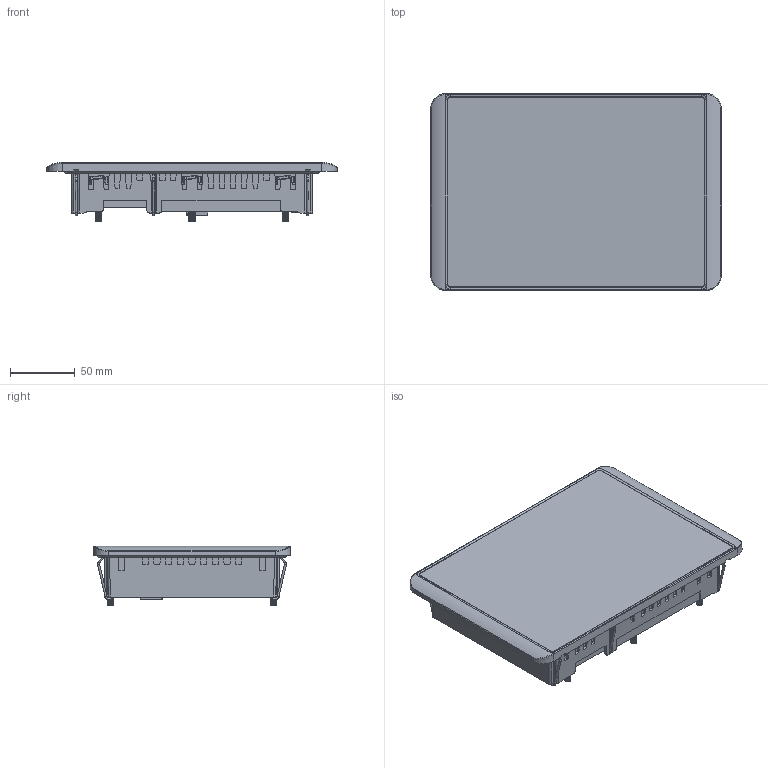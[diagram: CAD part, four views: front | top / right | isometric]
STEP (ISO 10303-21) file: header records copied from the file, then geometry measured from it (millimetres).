
FILE_DESCRIPTION (( 'STEP AP214' ), '1' );
FILE_NAME ('ET2007_Controller.STEP', '2014-11-14T22:13:30', ( '' ), ( '' ), 'SwSTEP 2.0', 'SolidWorks 2013', '' );
FILE_SCHEMA (( 'AUTOMOTIVE_DESIGN' ));
Length unit declared in the file: millimetre
Products named in the file (1): ET2007_Controller
Bounding box: 224 x 152 x 45.6 mm (x, y, z)
Volume: 952205.9 mm3; surface area: 121676.9 mm2
Topology: 1 solids, 1 shells, 2347 faces, 6726 edges, 4293 vertices
Faces by surface type: plane 1157, bspline 422, cylinder 413, cone 252, torus 79, sphere 24
Full cylindrical faces by diameter (mm): 1.567 x2, 1.6 x24, 2 x1, 3.6 x1, 6 x1
Entity records: 92046 total; most frequent: CARTESIAN_POINT 36037, ORIENTED_EDGE 13212, DIRECTION 9718, EDGE_CURVE 6606, VERTEX_POINT 4261, LINE 3512, VECTOR 3512, AXIS2_PLACEMENT_3D 3103
